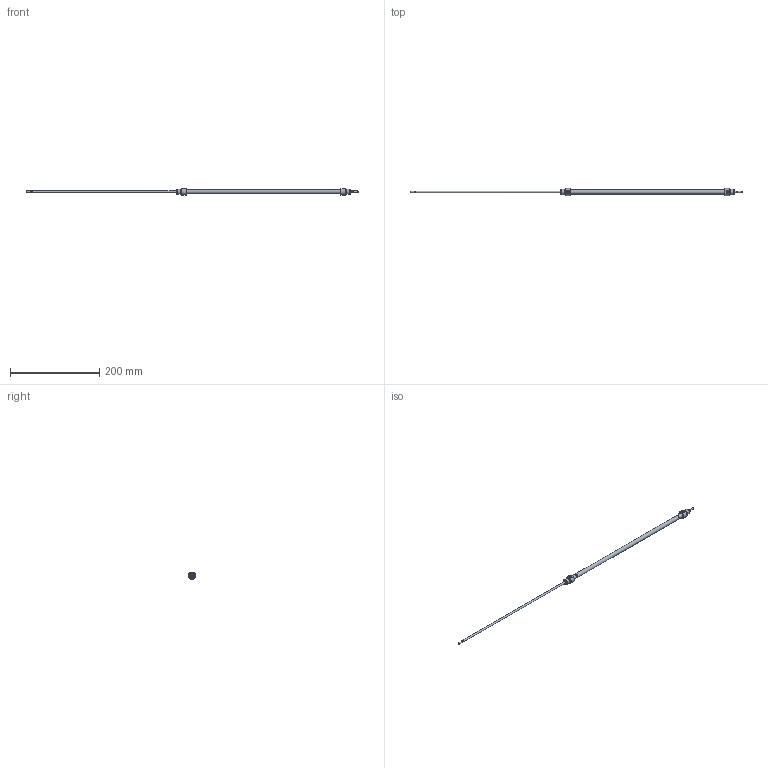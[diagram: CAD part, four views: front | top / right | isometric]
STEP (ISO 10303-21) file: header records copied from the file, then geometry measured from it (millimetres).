
FILE_DESCRIPTION( ( 'STEP AP203' ), '1' );
FILE_NAME( '//expscmdclustefs.cadenas.external/client_exchange/iodir/jobs/output/wkb68263252_no0/STEP/M101-08-0320--__0__2_03.stp', ' ', ( ' ' ), ( ' ' ), 'PSStep 15.0.47', 'PARTsolutions', ' ' );
FILE_SCHEMA( ( 'CONFIG_CONTROL_DESIGN' ) );
Length unit declared in the file: millimetre
Products named in the file (3): M101-08-0320-- [0]; HI_M101-08-0320---[0]-z; HI_M101-08-0320---[0]-k
Assembly tree (2 placements, depth 2):
  M101-08-0320-- [0]
    HI_M101-08-0320---[0]-z
    HI_M101-08-0320---[0]-k
Bounding box: 742 x 15.98 x 14.97 mm (x, y, z)
Volume: 22146.4 mm3; surface area: 31236.9 mm2
Topology: 2 solids, 2 shells, 71 faces, 145 edges, 88 vertices
Faces by surface type: plane 32, cylinder 23, cone 14, torus 2
Full cylindrical faces by diameter (mm): 3.141 x2, 4 x6, 4.134 x2, 8 x2, 9.3 x1, 10.466 x4, 12 x4
Entity records: 1838 total; most frequent: CARTESIAN_POINT 358, DIRECTION 312, ORIENTED_EDGE 212, AXIS2_PLACEMENT_3D 140, EDGE_LOOP 120, EDGE_CURVE 106, FACE_OUTER_BOUND 94, VERTEX_POINT 82
